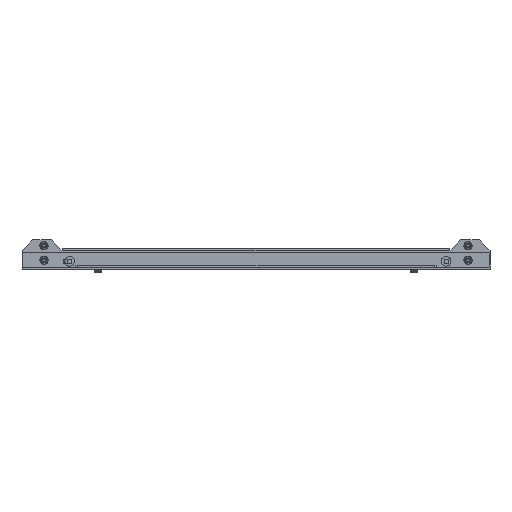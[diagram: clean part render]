
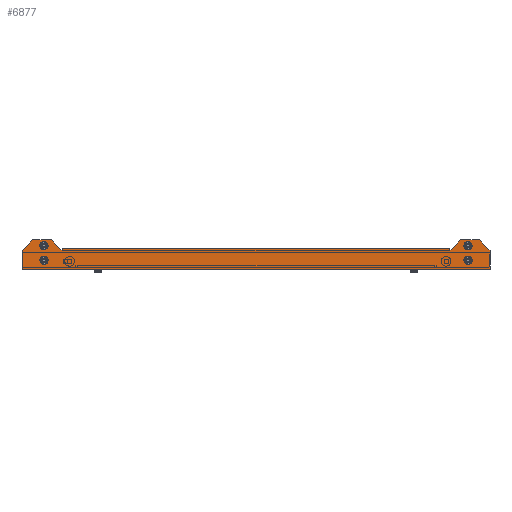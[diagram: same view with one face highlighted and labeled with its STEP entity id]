
A CAD part, front view. The second image highlights one B-rep face of the part: STEP entity #6877.
In plain terms, the highlighted planar face has unit normal (0, -1, 0).
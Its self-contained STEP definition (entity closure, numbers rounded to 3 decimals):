
#6841 = EDGE_CURVE('',#6842,#6844,#6846,.T.);
#6842 = VERTEX_POINT('',#6843);
#6843 = CARTESIAN_POINT('',(-400.,-2.5,3.5));
#6844 = VERTEX_POINT('',#6845);
#6845 = CARTESIAN_POINT('',(-400.,-2.5,31.5));
#6846 = LINE('',#6847,#6848);
#6847 = CARTESIAN_POINT('',(-400.,-2.5,0.));
#6848 = VECTOR('',#6849,1.);
#6849 = DIRECTION('',(0.,0.,1.));
#6877 = ADVANCED_FACE('',(#6878,#6889,#6900,#6911,#6922),#7043,.F.);
#6878 = FACE_BOUND('',#6879,.T.);
#6879 = EDGE_LOOP('',(#6880));
#6880 = ORIENTED_EDGE('',*,*,#6881,.F.);
#6881 = EDGE_CURVE('',#6882,#6882,#6884,.T.);
#6882 = VERTEX_POINT('',#6883);
#6883 = CARTESIAN_POINT('',(362.5,-2.5,44.75));
#6884 = CIRCLE('',#6885,4.75);
#6885 = AXIS2_PLACEMENT_3D('',#6886,#6887,#6888);
#6886 = CARTESIAN_POINT('',(362.5,-2.5,40.));
#6887 = DIRECTION('',(0.,-1.,0.));
#6888 = DIRECTION('',(0.,0.,1.));
#6889 = FACE_BOUND('',#6890,.T.);
#6890 = EDGE_LOOP('',(#6891));
#6891 = ORIENTED_EDGE('',*,*,#6892,.F.);
#6892 = EDGE_CURVE('',#6893,#6893,#6895,.T.);
#6893 = VERTEX_POINT('',#6894);
#6894 = CARTESIAN_POINT('',(362.5,-2.5,19.75));
#6895 = CIRCLE('',#6896,4.75);
#6896 = AXIS2_PLACEMENT_3D('',#6897,#6898,#6899);
#6897 = CARTESIAN_POINT('',(362.5,-2.5,15.));
#6898 = DIRECTION('',(0.,-1.,0.));
#6899 = DIRECTION('',(0.,0.,1.));
#6900 = FACE_BOUND('',#6901,.T.);
#6901 = EDGE_LOOP('',(#6902));
#6902 = ORIENTED_EDGE('',*,*,#6903,.F.);
#6903 = EDGE_CURVE('',#6904,#6904,#6906,.T.);
#6904 = VERTEX_POINT('',#6905);
#6905 = CARTESIAN_POINT('',(-362.5,-2.5,19.75));
#6906 = CIRCLE('',#6907,4.75);
#6907 = AXIS2_PLACEMENT_3D('',#6908,#6909,#6910);
#6908 = CARTESIAN_POINT('',(-362.5,-2.5,15.));
#6909 = DIRECTION('',(0.,-1.,0.));
#6910 = DIRECTION('',(0.,0.,1.));
#6911 = FACE_BOUND('',#6912,.T.);
#6912 = EDGE_LOOP('',(#6913));
#6913 = ORIENTED_EDGE('',*,*,#6914,.F.);
#6914 = EDGE_CURVE('',#6915,#6915,#6917,.T.);
#6915 = VERTEX_POINT('',#6916);
#6916 = CARTESIAN_POINT('',(-362.5,-2.5,44.75));
#6917 = CIRCLE('',#6918,4.75);
#6918 = AXIS2_PLACEMENT_3D('',#6919,#6920,#6921);
#6919 = CARTESIAN_POINT('',(-362.5,-2.5,40.));
#6920 = DIRECTION('',(0.,-1.,0.));
#6921 = DIRECTION('',(0.,0.,1.));
#6922 = FACE_BOUND('',#6923,.T.);
#6923 = EDGE_LOOP('',(#6924,#6934,#6942,#6950,#6958,#6966,#6974,#6982,
    #6990,#6998,#7006,#7014,#7020,#7021,#7029,#7037));
#6924 = ORIENTED_EDGE('',*,*,#6925,.F.);
#6925 = EDGE_CURVE('',#6926,#6928,#6930,.T.);
#6926 = VERTEX_POINT('',#6927);
#6927 = CARTESIAN_POINT('',(400.,-2.5,31.5));
#6928 = VERTEX_POINT('',#6929);
#6929 = CARTESIAN_POINT('',(400.,-2.5,3.5));
#6930 = LINE('',#6931,#6932);
#6931 = CARTESIAN_POINT('',(400.,-2.5,0.));
#6932 = VECTOR('',#6933,1.);
#6933 = DIRECTION('',(-0.,-0.,-1.));
#6934 = ORIENTED_EDGE('',*,*,#6935,.T.);
#6935 = EDGE_CURVE('',#6926,#6936,#6938,.T.);
#6936 = VERTEX_POINT('',#6937);
#6937 = CARTESIAN_POINT('',(381.5,-2.5,50.));
#6938 = LINE('',#6939,#6940);
#6939 = CARTESIAN_POINT('',(381.5,-2.5,50.));
#6940 = VECTOR('',#6941,1.);
#6941 = DIRECTION('',(-0.707,-0.,0.707));
#6942 = ORIENTED_EDGE('',*,*,#6943,.F.);
#6943 = EDGE_CURVE('',#6944,#6936,#6946,.T.);
#6944 = VERTEX_POINT('',#6945);
#6945 = CARTESIAN_POINT('',(350.,-2.5,50.));
#6946 = LINE('',#6947,#6948);
#6947 = CARTESIAN_POINT('',(400.,-2.5,50.));
#6948 = VECTOR('',#6949,1.);
#6949 = DIRECTION('',(1.,-0.,0.));
#6950 = ORIENTED_EDGE('',*,*,#6951,.T.);
#6951 = EDGE_CURVE('',#6944,#6952,#6954,.T.);
#6952 = VERTEX_POINT('',#6953);
#6953 = CARTESIAN_POINT('',(331.5,-2.5,31.5));
#6954 = LINE('',#6955,#6956);
#6955 = CARTESIAN_POINT('',(150.,-2.5,-150.));
#6956 = VECTOR('',#6957,1.);
#6957 = DIRECTION('',(-0.707,0.,-0.707));
#6958 = ORIENTED_EDGE('',*,*,#6959,.F.);
#6959 = EDGE_CURVE('',#6960,#6952,#6962,.T.);
#6960 = VERTEX_POINT('',#6961);
#6961 = CARTESIAN_POINT('',(330.,-2.5,31.5));
#6962 = LINE('',#6963,#6964);
#6963 = CARTESIAN_POINT('',(-350.,-2.5,31.5));
#6964 = VECTOR('',#6965,1.);
#6965 = DIRECTION('',(1.,0.,0.));
#6966 = ORIENTED_EDGE('',*,*,#6967,.T.);
#6967 = EDGE_CURVE('',#6960,#6968,#6970,.T.);
#6968 = VERTEX_POINT('',#6969);
#6969 = CARTESIAN_POINT('',(330.,-2.5,35.));
#6970 = LINE('',#6971,#6972);
#6971 = CARTESIAN_POINT('',(330.,-2.5,31.5));
#6972 = VECTOR('',#6973,1.);
#6973 = DIRECTION('',(-0.,-0.,1.));
#6974 = ORIENTED_EDGE('',*,*,#6975,.F.);
#6975 = EDGE_CURVE('',#6976,#6968,#6978,.T.);
#6976 = VERTEX_POINT('',#6977);
#6977 = CARTESIAN_POINT('',(-330.,-2.5,35.));
#6978 = LINE('',#6979,#6980);
#6979 = CARTESIAN_POINT('',(0.,-2.5,35.));
#6980 = VECTOR('',#6981,1.);
#6981 = DIRECTION('',(1.,-0.,-0.));
#6982 = ORIENTED_EDGE('',*,*,#6983,.F.);
#6983 = EDGE_CURVE('',#6984,#6976,#6986,.T.);
#6984 = VERTEX_POINT('',#6985);
#6985 = CARTESIAN_POINT('',(-330.,-2.5,31.5));
#6986 = LINE('',#6987,#6988);
#6987 = CARTESIAN_POINT('',(-330.,-2.5,0.));
#6988 = VECTOR('',#6989,1.);
#6989 = DIRECTION('',(0.,0.,1.));
#6990 = ORIENTED_EDGE('',*,*,#6991,.F.);
#6991 = EDGE_CURVE('',#6992,#6984,#6994,.T.);
#6992 = VERTEX_POINT('',#6993);
#6993 = CARTESIAN_POINT('',(-331.5,-2.5,31.5));
#6994 = LINE('',#6995,#6996);
#6995 = CARTESIAN_POINT('',(-350.,-2.5,31.5));
#6996 = VECTOR('',#6997,1.);
#6997 = DIRECTION('',(1.,0.,0.));
#6998 = ORIENTED_EDGE('',*,*,#6999,.T.);
#6999 = EDGE_CURVE('',#6992,#7000,#7002,.T.);
#7000 = VERTEX_POINT('',#7001);
#7001 = CARTESIAN_POINT('',(-350.,-2.5,50.));
#7002 = LINE('',#7003,#7004);
#7003 = CARTESIAN_POINT('',(-150.,-2.5,-150.));
#7004 = VECTOR('',#7005,1.);
#7005 = DIRECTION('',(-0.707,-0.,0.707));
#7006 = ORIENTED_EDGE('',*,*,#7007,.F.);
#7007 = EDGE_CURVE('',#7008,#7000,#7010,.T.);
#7008 = VERTEX_POINT('',#7009);
#7009 = CARTESIAN_POINT('',(-381.5,-2.5,50.));
#7010 = LINE('',#7011,#7012);
#7011 = CARTESIAN_POINT('',(-400.,-2.5,50.));
#7012 = VECTOR('',#7013,1.);
#7013 = DIRECTION('',(1.,0.,0.));
#7014 = ORIENTED_EDGE('',*,*,#7015,.T.);
#7015 = EDGE_CURVE('',#7008,#6844,#7016,.T.);
#7016 = LINE('',#7017,#7018);
#7017 = CARTESIAN_POINT('',(-400.,-2.5,31.5));
#7018 = VECTOR('',#7019,1.);
#7019 = DIRECTION('',(-0.707,-0.,-0.707));
#7020 = ORIENTED_EDGE('',*,*,#6841,.F.);
#7021 = ORIENTED_EDGE('',*,*,#7022,.T.);
#7022 = EDGE_CURVE('',#6842,#7023,#7025,.T.);
#7023 = VERTEX_POINT('',#7024);
#7024 = CARTESIAN_POINT('',(-400.,-2.5,0.));
#7025 = LINE('',#7026,#7027);
#7026 = CARTESIAN_POINT('',(-400.,-2.5,3.5));
#7027 = VECTOR('',#7028,1.);
#7028 = DIRECTION('',(0.,-0.,-1.));
#7029 = ORIENTED_EDGE('',*,*,#7030,.F.);
#7030 = EDGE_CURVE('',#7031,#7023,#7033,.T.);
#7031 = VERTEX_POINT('',#7032);
#7032 = CARTESIAN_POINT('',(400.,-2.5,0.));
#7033 = LINE('',#7034,#7035);
#7034 = CARTESIAN_POINT('',(0.,-2.5,0.));
#7035 = VECTOR('',#7036,1.);
#7036 = DIRECTION('',(-1.,-0.,0.));
#7037 = ORIENTED_EDGE('',*,*,#7038,.F.);
#7038 = EDGE_CURVE('',#6928,#7031,#7039,.T.);
#7039 = LINE('',#7040,#7041);
#7040 = CARTESIAN_POINT('',(400.,-2.5,0.));
#7041 = VECTOR('',#7042,1.);
#7042 = DIRECTION('',(0.,0.,-1.));
#7043 = PLANE('',#7044);
#7044 = AXIS2_PLACEMENT_3D('',#7045,#7046,#7047);
#7045 = CARTESIAN_POINT('',(0.,-2.5,0.));
#7046 = DIRECTION('',(0.,1.,0.));
#7047 = DIRECTION('',(0.,-0.,1.));
